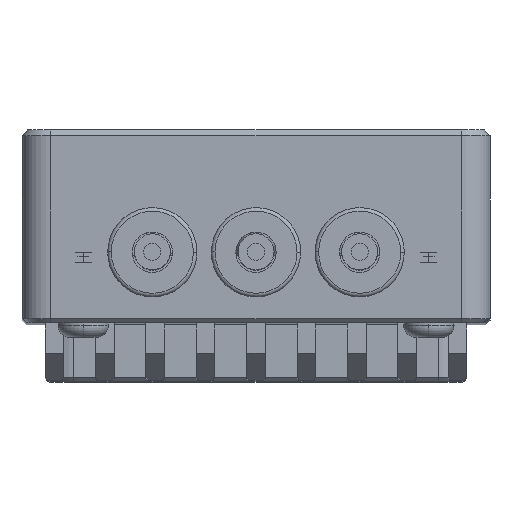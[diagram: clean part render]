
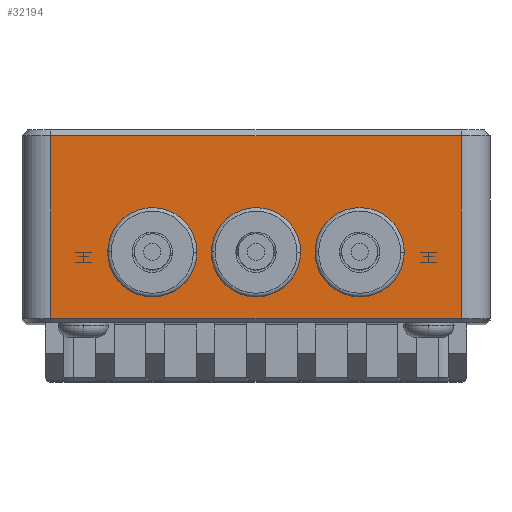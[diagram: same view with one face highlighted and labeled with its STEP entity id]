
A CAD part, top view. The second image highlights one B-rep face of the part: STEP entity #32194.
In plain terms, the highlighted planar face has unit normal (0, 0, 1).
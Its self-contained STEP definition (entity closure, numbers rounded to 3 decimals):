
#11117=DIRECTION('',(0.,1.,0.));
#11118=VECTOR('',#11117,12.7);
#11119=CARTESIAN_POINT('',(14.25,2.9,35.5));
#11120=LINE('',#11119,#11118);
#11135=DIRECTION('',(1.,0.,0.));
#11136=VECTOR('',#11135,28.5);
#11137=CARTESIAN_POINT('',(-14.25,15.6,
35.5));
#11138=LINE('',#11137,#11136);
#11139=DIRECTION('',(-1.,0.,0.));
#11140=VECTOR('',#11139,28.5);
#11141=CARTESIAN_POINT('',(14.25,2.9,35.5));
#11142=LINE('',#11141,#11140);
#11143=CARTESIAN_POINT('',(-7.2,7.5,35.5));
#11144=DIRECTION('',(0.,0.,-1.));
#11145=DIRECTION('',(-1.,0.009,0.));
#11146=AXIS2_PLACEMENT_3D('',#11143,#11144,#11145);
#11148=CARTESIAN_POINT('',(-7.2,7.5,35.5));
#11149=DIRECTION('',(0.,0.,-1.));
#11150=DIRECTION('',(1.,-0.009,0.));
#11151=AXIS2_PLACEMENT_3D('',#11148,#11149,#11150);
#11153=CARTESIAN_POINT('',(0.,7.5,35.5));
#11154=DIRECTION('',(0.,0.,-1.));
#11155=DIRECTION('',(-1.,0.009,0.));
#11156=AXIS2_PLACEMENT_3D('',#11153,#11154,#11155);
#11158=CARTESIAN_POINT('',(0.,7.5,35.5));
#11159=DIRECTION('',(0.,0.,-1.));
#11160=DIRECTION('',(1.,-0.009,0.));
#11161=AXIS2_PLACEMENT_3D('',#11158,#11159,#11160);
#11163=CARTESIAN_POINT('',(7.2,7.5,35.5));
#11164=DIRECTION('',(0.,0.,-1.));
#11165=DIRECTION('',(-1.,0.009,0.));
#11166=AXIS2_PLACEMENT_3D('',#11163,#11164,#11165);
#11168=CARTESIAN_POINT('',(7.2,7.5,35.5));
#11169=DIRECTION('',(0.,0.,-1.));
#11170=DIRECTION('',(1.,-0.009,0.));
#11171=AXIS2_PLACEMENT_3D('',#11168,#11169,#11170);
#11182=DIRECTION('',(0.,-1.,0.));
#11183=VECTOR('',#11182,12.7);
#11184=CARTESIAN_POINT('',(-14.25,15.6,
35.5));
#11185=LINE('',#11184,#11183);
#15790=CARTESIAN_POINT('',(14.25,2.9,35.5));
#15792=VERTEX_POINT('',#15790);
#15793=CARTESIAN_POINT('',(-14.25,2.9,
35.5));
#15794=VERTEX_POINT('',#15793);
#16789=CARTESIAN_POINT('',(-14.25,15.6,35.5));
#16791=VERTEX_POINT('',#16789);
#16794=CARTESIAN_POINT('',(14.25,15.6,35.5));
#16795=VERTEX_POINT('',#16794);
#18233=CARTESIAN_POINT('',(-10.3,7.528,35.5));
#18234=CARTESIAN_POINT('',(-4.1,7.472,35.5));
#18235=VERTEX_POINT('',#18233);
#18236=VERTEX_POINT('',#18234);
#18278=CARTESIAN_POINT('',(-3.1,7.528,35.5));
#18279=CARTESIAN_POINT('',(3.1,7.472,35.5));
#18280=VERTEX_POINT('',#18278);
#18281=VERTEX_POINT('',#18279);
#18294=CARTESIAN_POINT('',(4.1,7.528,35.5));
#18295=CARTESIAN_POINT('',(10.3,7.472,35.5));
#18296=VERTEX_POINT('',#18294);
#18297=VERTEX_POINT('',#18295);
#32163=CARTESIAN_POINT('',(-16.25,0.,35.5));
#32164=DIRECTION('',(0.,0.,1.));
#32165=DIRECTION('',(1.,0.,0.));
#32166=AXIS2_PLACEMENT_3D('',#32163,#32164,#32165);
#32167=PLANE('',#32166);
#32169=ORIENTED_EDGE('',*,*,#32168,.F.);
#32171=ORIENTED_EDGE('',*,*,#32170,.T.);
#32172=ORIENTED_EDGE('',*,*,#32153,.F.);
#32173=ORIENTED_EDGE('',*,*,#26367,.T.);
#32174=EDGE_LOOP('',(#32169,#32171,#32172,#32173));
#32175=FACE_OUTER_BOUND('',#32174,.F.);
#32177=ORIENTED_EDGE('',*,*,#32176,.F.);
#32179=ORIENTED_EDGE('',*,*,#32178,.F.);
#32180=EDGE_LOOP('',(#32177,#32179));
#32181=FACE_BOUND('',#32180,.F.);
#32183=ORIENTED_EDGE('',*,*,#32182,.F.);
#32185=ORIENTED_EDGE('',*,*,#32184,.F.);
#32186=EDGE_LOOP('',(#32183,#32185));
#32187=FACE_BOUND('',#32186,.F.);
#32189=ORIENTED_EDGE('',*,*,#32188,.F.);
#32191=ORIENTED_EDGE('',*,*,#32190,.F.);
#32192=EDGE_LOOP('',(#32189,#32191));
#32193=FACE_BOUND('',#32192,.F.);
#32194=ADVANCED_FACE('',(#32175,#32181,#32187,#32193),#32167,.T.);
#11147=CIRCLE('',#11146,3.1);
#11152=CIRCLE('',#11151,3.1);
#11157=CIRCLE('',#11156,3.1);
#11162=CIRCLE('',#11161,3.1);
#11167=CIRCLE('',#11166,3.1);
#11172=CIRCLE('',#11171,3.1);
#26367=EDGE_CURVE('',#15792,#15794,#11142,.T.);
#32153=EDGE_CURVE('',#15792,#16795,#11120,.T.);
#32168=EDGE_CURVE('',#16791,#15794,#11185,.T.);
#32170=EDGE_CURVE('',#16791,#16795,#11138,.T.);
#32176=EDGE_CURVE('',#18235,#18236,#11147,.T.);
#32178=EDGE_CURVE('',#18236,#18235,#11152,.T.);
#32182=EDGE_CURVE('',#18280,#18281,#11157,.T.);
#32184=EDGE_CURVE('',#18281,#18280,#11162,.T.);
#32188=EDGE_CURVE('',#18296,#18297,#11167,.T.);
#32190=EDGE_CURVE('',#18297,#18296,#11172,.T.);
